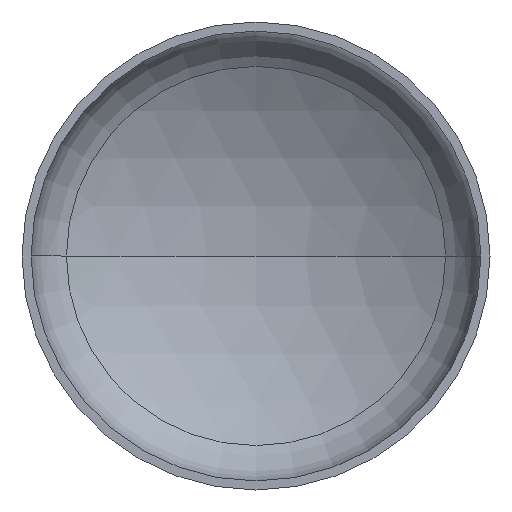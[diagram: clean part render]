
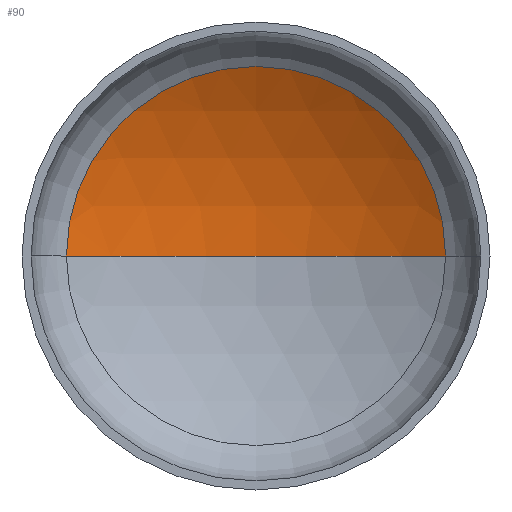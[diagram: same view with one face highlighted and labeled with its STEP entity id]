
A CAD part, front view. The second image highlights one B-rep face of the part: STEP entity #90.
In plain terms, the highlighted spherical face has radius 1440 mm.
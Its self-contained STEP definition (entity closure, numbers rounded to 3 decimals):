
#1 = DIRECTION ( 'NONE',  ( 0., -1., 0. ) ) ;
#8 = CARTESIAN_POINT ( 'NONE',  ( 0., 347.126, 0. ) ) ;
#9 = AXIS2_PLACEMENT_3D ( 'NONE', #38, #168, #290 ) ;
#12 = EDGE_LOOP ( 'NONE', ( #21, #148, #164 ) ) ;
#20 = VERTEX_POINT ( 'NONE', #250 ) ;
#21 = ORIENTED_EDGE ( 'NONE', *, *, #359, .F. ) ;
#38 = CARTESIAN_POINT ( 'NONE',  ( 0., -894.552, 0. ) ) ;
#43 = DIRECTION ( 'NONE',  ( 1., 0., 0. ) ) ;
#48 = VERTEX_POINT ( 'NONE', #237 ) ;
#56 = CIRCLE ( 'NONE', #9, 1440. ) ;
#57 = AXIS2_PLACEMENT_3D ( 'NONE', #385, #403, #271 ) ;
#66 = AXIS2_PLACEMENT_3D ( 'NONE', #8, #1, #43 ) ;
#90 = ADVANCED_FACE ( 'NONE', ( #253 ), #192, .F. ) ;
#100 = AXIS2_PLACEMENT_3D ( 'NONE', #241, #230, #238 ) ;
#143 = VERTEX_POINT ( 'NONE', #339 ) ;
#148 = ORIENTED_EDGE ( 'NONE', *, *, #152, .T. ) ;
#151 = EDGE_CURVE ( 'NONE', #48, #143, #240, .T. ) ;
#152 = EDGE_CURVE ( 'NONE', #20, #48, #407, .T. ) ;
#164 = ORIENTED_EDGE ( 'NONE', *, *, #151, .T. ) ;
#168 = DIRECTION ( 'NONE',  ( 0., 0., 1. ) ) ;
#192 = SPHERICAL_SURFACE ( 'NONE', #100, 1440. ) ;
#230 = DIRECTION ( 'NONE',  ( 0., 0., -1. ) ) ;
#237 = CARTESIAN_POINT ( 'NONE',  ( 729.27, 347.126, 0. ) ) ;
#238 = DIRECTION ( 'NONE',  ( -1., 0., 0. ) ) ;
#240 = CIRCLE ( 'NONE', #66, 729.27 ) ;
#241 = CARTESIAN_POINT ( 'NONE',  ( 0., -894.552, 0. ) ) ;
#250 = CARTESIAN_POINT ( 'NONE',  ( 0., 545.448, 0. ) ) ;
#253 = FACE_OUTER_BOUND ( 'NONE', #12, .T. ) ;
#271 = DIRECTION ( 'NONE',  ( -1., 0., 0. ) ) ;
#290 = DIRECTION ( 'NONE',  ( 1., 0., 0. ) ) ;
#339 = CARTESIAN_POINT ( 'NONE',  ( -729.27, 347.126, 0. ) ) ;
#359 = EDGE_CURVE ( 'NONE', #20, #143, #56, .T. ) ;
#385 = CARTESIAN_POINT ( 'NONE',  ( 0., -894.552, 0. ) ) ;
#403 = DIRECTION ( 'NONE',  ( 0., 0., -1. ) ) ;
#407 = CIRCLE ( 'NONE', #57, 1440. ) ;
